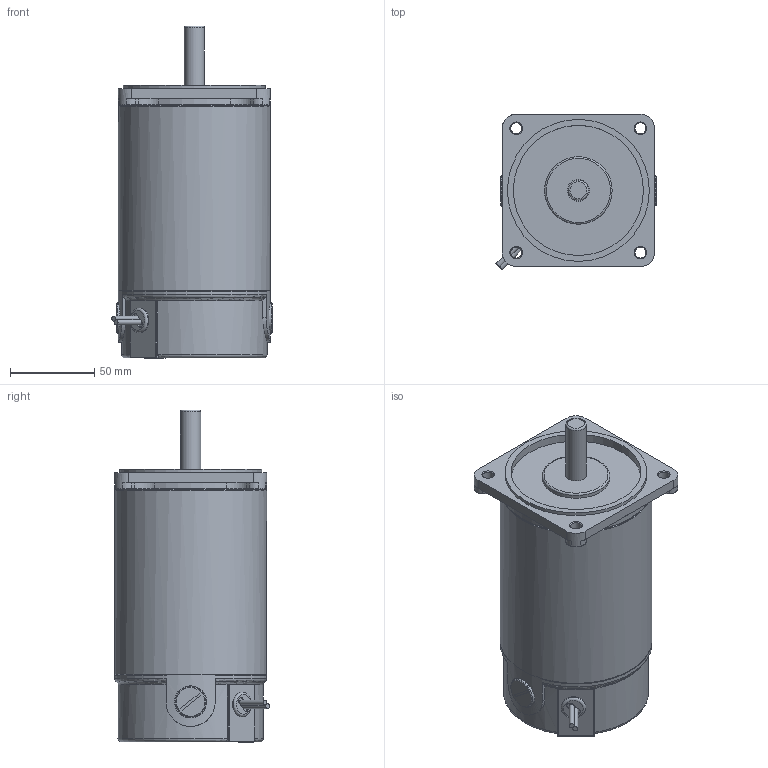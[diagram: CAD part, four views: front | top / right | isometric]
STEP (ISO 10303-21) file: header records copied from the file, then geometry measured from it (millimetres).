
FILE_DESCRIPTION((''),'2;1');
FILE_NAME('\\192.168.5.4\오메가연구소\DC CAD\02 - DC MOTOR 설계 - CAD FILE\DC MOTOR 3D 도면\표준 3D 파일\90각\200W\S9D200-ㅁS.stp','2014-06-16T19:51:34',('ycw1227'),(''),'Autodesk Inventor 2011','Autodesk Inventor 2011','');
FILE_SCHEMA(('AUTOMOTIVE_DESIGN { 1 0 10303 214 1 1 1 1 }'));
Length unit declared in the file: millimetre
Products named in the file (1): S9D200-ㅁS
Bounding box: 94.79 x 91.63 x 196.5 mm (x, y, z)
Volume: 1006073 mm3; surface area: 68175.8 mm2
Topology: 2 solids, 4 shells, 184 faces, 423 edges, 260 vertices
Faces by surface type: plane 73, cylinder 64, torus 31, cone 13, sphere 2, bspline 1
Full cylindrical faces by diameter (mm): 3 x2, 5 x3, 6.5 x4, 12 x1, 13 x1, 14.63 x1, 14.65 x1, 18 x2, 19 x2, 40 x1, 77 x1, 84 x1, 90 x2
Entity records: 5505 total; most frequent: CARTESIAN_POINT 1283, DIRECTION 930, ORIENTED_EDGE 768, AXIS2_PLACEMENT_3D 392, EDGE_CURVE 384, VERTEX_POINT 255, EDGE_LOOP 240, CIRCLE 208
